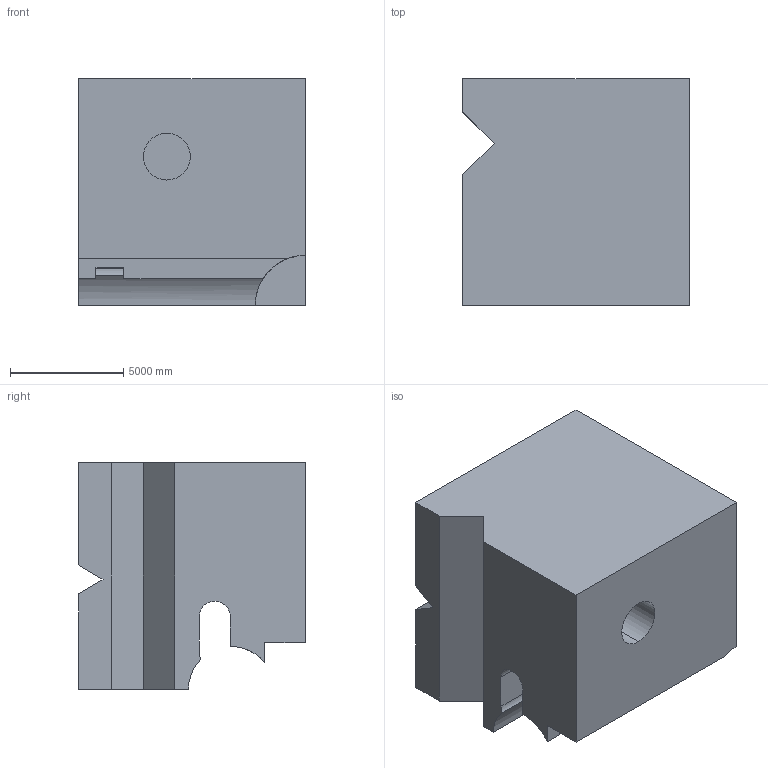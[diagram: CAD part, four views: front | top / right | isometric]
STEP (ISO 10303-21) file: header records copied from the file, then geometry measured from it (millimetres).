
FILE_DESCRIPTION (( 'STEP AP203' ), '1' );
FILE_NAME ('355.STEP', '2022-09-07T13:08:06', ( 'user' ), ( '' ), 'SwSTEP 2.0', 'SolidWorks 2021', '' );
FILE_SCHEMA (( 'CONFIG_CONTROL_DESIGN' ));
Length unit declared in the file: centimetre
Products named in the file (1): 355
Bounding box: 10000 x 10000 x 10000 mm (x, y, z)
Volume: 827132189792 mm3; surface area: 680349517.2 mm2
Topology: 1 solids, 1 shells, 30 faces, 81 edges, 54 vertices
Faces by surface type: plane 21, cylinder 9
Entity records: 1128 total; most frequent: CARTESIAN_POINT 280, ORIENTED_EDGE 162, DIRECTION 158, EDGE_CURVE 81, LINE 60, VECTOR 60, VERTEX_POINT 54, AXIS2_PLACEMENT_3D 49
